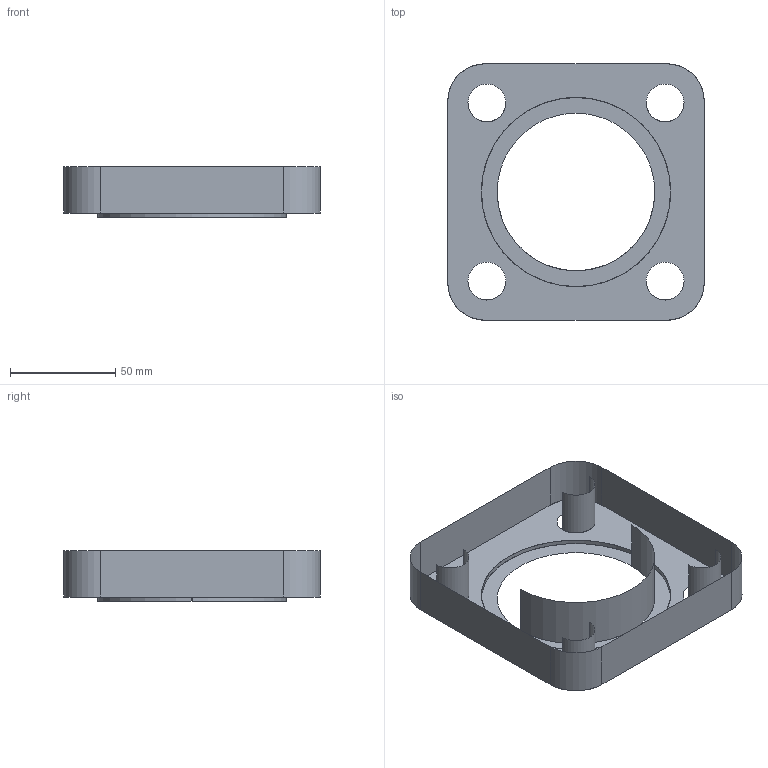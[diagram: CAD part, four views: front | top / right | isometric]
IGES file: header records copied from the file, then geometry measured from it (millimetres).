
Start section: SolidWorks IGES file using analytic representation for surfaces
Global section: file name: D:\3D外觀整機\法蘭\igs\2”flange.IGS; native system: SolidWorks 2013; preprocessor: SolidWorks 2013; author: hedylu; date: 140417.083822; units: millimetre
Bounding box: 122 x 122 x 24 mm (x, y, z)
Surface area: 25141.5 mm2 (no closed solid volume)
Topology: 0 solids, 0 shells, 17 faces, 548 edges, 552 vertices
Faces by surface type: revolution 11, bspline 6
